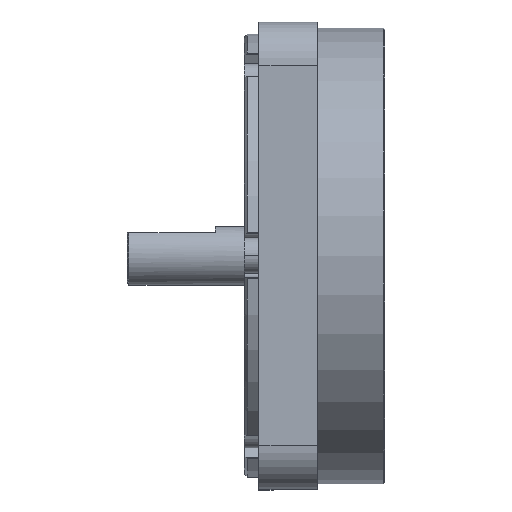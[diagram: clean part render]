
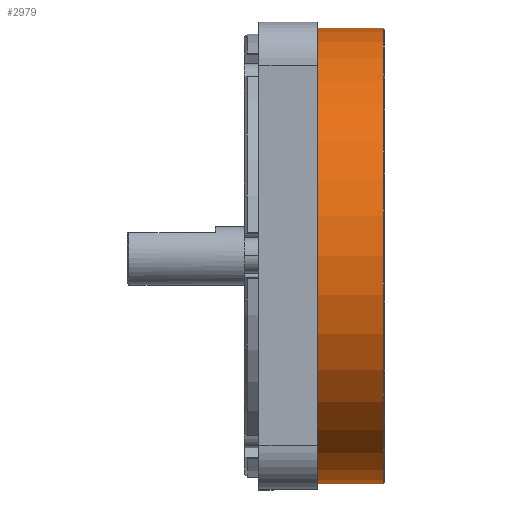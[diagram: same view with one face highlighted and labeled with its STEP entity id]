
A CAD part, top view. The second image highlights one B-rep face of the part: STEP entity #2979.
In plain terms, the highlighted cylindrical face has radius 39 mm (diameter 78 mm), a partial arc.
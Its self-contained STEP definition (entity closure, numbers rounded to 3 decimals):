
#2904 = ORIENTED_EDGE ( 'NONE', *, *, #2952, .T. ) ;
#2907 = EDGE_LOOP ( 'NONE', ( #2904, #3003, #2997, #2975 ) ) ;
#2929 = EDGE_CURVE ( 'NONE', #2931, #2947, #4747, .T. ) ;
#2931 = VERTEX_POINT ( 'NONE', #4743 ) ;
#2947 = VERTEX_POINT ( 'NONE', #4764 ) ;
#2952 = EDGE_CURVE ( 'NONE', #2967, #2972, #4761, .T. ) ;
#2967 = VERTEX_POINT ( 'NONE', #4791 ) ;
#2968 = EDGE_CURVE ( 'NONE', #2967, #2931, #4790, .T. ) ;
#2972 = VERTEX_POINT ( 'NONE', #4784 ) ;
#2975 = ORIENTED_EDGE ( 'NONE', *, *, #2968, .F. ) ;
#2979 = ADVANCED_FACE ( 'NONE', ( #4832 ), #4831, .T. ) ;
#2997 = ORIENTED_EDGE ( 'NONE', *, *, #2929, .F. ) ;
#3003 = ORIENTED_EDGE ( 'NONE', *, *, #3021, .T. ) ;
#3021 = EDGE_CURVE ( 'NONE', #2972, #2947, #4884, .T. ) ;
#4689 = CARTESIAN_POINT ( 'NONE',  ( 42.8, 0., 0. ) ) ;
#4743 = CARTESIAN_POINT ( 'NONE',  ( 42.8, 39., 0. ) ) ;
#4744 = DIRECTION ( 'NONE',  ( 0., -1., 0. ) ) ;
#4745 = DIRECTION ( 'NONE',  ( 1., 0., 0. ) ) ;
#4746 = AXIS2_PLACEMENT_3D ( 'NONE', #4689, #4745, #4744 ) ;
#4747 = CIRCLE ( 'NONE', #4746, 39. ) ;
#4757 = DIRECTION ( 'NONE',  ( 0., 1., 0. ) ) ;
#4758 = DIRECTION ( 'NONE',  ( 1., 0., 0. ) ) ;
#4759 = CARTESIAN_POINT ( 'NONE',  ( 31.5, 0., 0. ) ) ;
#4760 = AXIS2_PLACEMENT_3D ( 'NONE', #4759, #4758, #4757 ) ;
#4761 = CIRCLE ( 'NONE', #4760, 39. ) ;
#4764 = CARTESIAN_POINT ( 'NONE',  ( 42.8, -39., 0. ) ) ;
#4784 = CARTESIAN_POINT ( 'NONE',  ( 31.5, -39., 0. ) ) ;
#4787 = DIRECTION ( 'NONE',  ( 1., 0., 0. ) ) ;
#4788 = VECTOR ( 'NONE', #4787, 1000. ) ;
#4789 = CARTESIAN_POINT ( 'NONE',  ( 37.25, 39., 0. ) ) ;
#4790 = LINE ( 'NONE', #4789, #4788 ) ;
#4791 = CARTESIAN_POINT ( 'NONE',  ( 31.5, 39., 0. ) ) ;
#4826 = DIRECTION ( 'NONE',  ( 0., 1., 0. ) ) ;
#4827 = DIRECTION ( 'NONE',  ( 1., 0., 0. ) ) ;
#4828 = CARTESIAN_POINT ( 'NONE',  ( 37.25, 0., 0. ) ) ;
#4829 = AXIS2_PLACEMENT_3D ( 'NONE', #4828, #4827, #4826 ) ;
#4831 = CYLINDRICAL_SURFACE ( 'NONE', #4829, 39. ) ;
#4832 = FACE_OUTER_BOUND ( 'NONE', #2907, .T. ) ;
#4881 = DIRECTION ( 'NONE',  ( 1., 0., 0. ) ) ;
#4882 = VECTOR ( 'NONE', #4881, 1000. ) ;
#4883 = CARTESIAN_POINT ( 'NONE',  ( 37.25, -39., 0. ) ) ;
#4884 = LINE ( 'NONE', #4883, #4882 ) ;
